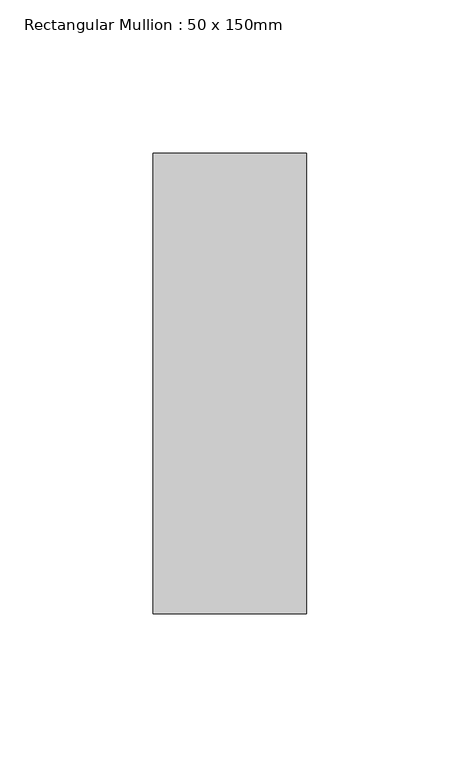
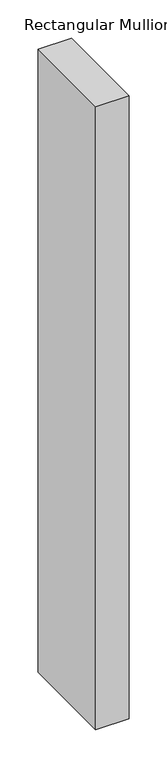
"""IFC4 building model written with IfcOpenShell, lengths in millimetres: member geometry, Rectangular Mullion : 50 x 150mm."""

from ifc_helpers import new_model, si_unit, frame, origin, place, context, project, spatial, polyline, outline, extrude, source, transform, mapped, element, save


def rectangular_mullion_50_x_150mm_c9412cac(model_context):
    return source(origin(), model_context, "Body", "SweptSolid", [
        extrude(outline(polyline([(25.0, 75.0), (25.0, -75.0), (-25.0, -75.0), (-25.0, 75.0), (25.0, 75.0)])), frame((0.0, 0.0, -991.6666668), z_axis=(0.0, 0.0, 1.0), x_axis=(1.0, 0.0, 0.0)), (0.0, 0.0, 1.0), 991.6666668),
    ])


if __name__ == "__main__":
    model = new_model("IFC4")
    model_context = context("Model", 3, world=origin())
    ifc_project = project(units=[si_unit("LENGTHUNIT", "METRE", prefix="MILLI")], contexts=[model_context])
    site = spatial("IfcSite", under=ifc_project)
    building = spatial("IfcBuilding", under=site)
    placement = place(None, origin())
    rectangular_mullion_50_x_150mm_shape = rectangular_mullion_50_x_150mm_c9412cac(model_context)
    element("IfcMember", 1, ObjectType="Rectangular Mullion : 50 x 150mm", at=placement, inside=building, context=model_context, shape_type="MappedRepresentation", body=[
        mapped(rectangular_mullion_50_x_150mm_shape, transform((0.0, 0.0, 0.0), x_axis=(1.0, 0.0, 0.0), y_axis=(0.0, 1.0, 0.0), z_axis=(0.0, 0.0, 1.0))),
    ])
    save(model, "model.ifc")
